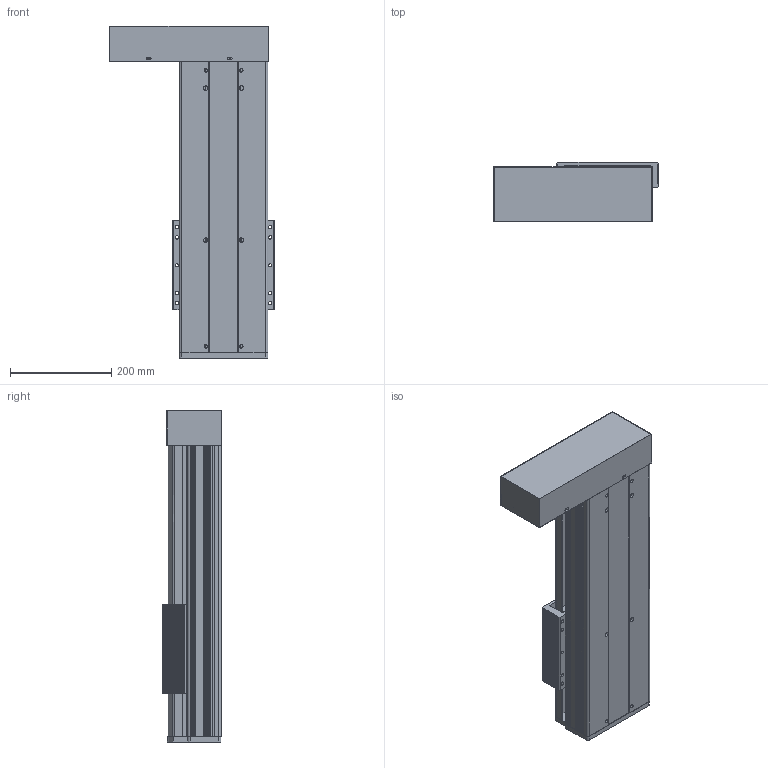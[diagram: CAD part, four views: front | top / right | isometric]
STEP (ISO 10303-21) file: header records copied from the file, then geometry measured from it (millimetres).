
FILE_DESCRIPTION (( 'STEP AP214' ), '1' );
FILE_NAME ('CF175B-C-300-FWL.STEP', '2019-12-03T03:10:55', ( '微软用户' ), ( '微软中国' ), 'SwSTEP 2.0', 'SolidWorks 2016', '' );
FILE_SCHEMA (( 'AUTOMOTIVE_DESIGN' ));
Length unit declared in the file: millimetre
Products named in the file (12): 肮祭謫欶; 175B殏俔萇儂啣; 175-2同步带从动端固定座; CF175-2賑雄啣; EGR20絳寢-300; 175B臏倰第-300; CF175B-300; CF175-2蹟譫釱; 175-2盓傅釱; 175-2耜啣; CF-EGH20CA賑輸; CF175B-C-300-FWL
Assembly tree (15 placements, depth 2):
  CF175B-C-300-FWL
    CF-EGH20CA賑輸  x4
    175-2耜啣
    175-2盓傅釱
    CF175-2蹟譫釱
    CF175B-300
    175B臏倰第-300
    EGR20絳寢-300  x2
    CF175-2賑雄啣
    175-2同步带从动端固定座
    175B殏俔萇儂啣
    肮祭謫欶
Bounding box: 324.5 x 118.3 x 655 mm (x, y, z)
Volume: 5647216.5 mm3; surface area: 1666306.9 mm2
Topology: 21 solids, 21 shells, 1252 faces, 3305 edges, 2189 vertices
Faces by surface type: plane 637, cylinder 605, cone 8, bspline 2
Entity records: 32364 total; most frequent: DIRECTION 5409, CARTESIAN_POINT 5346, ORIENTED_EDGE 5016, EDGE_CURVE 2508, AXIS2_PLACEMENT_3D 1968, VERTEX_POINT 1665, LINE 1473, VECTOR 1473
